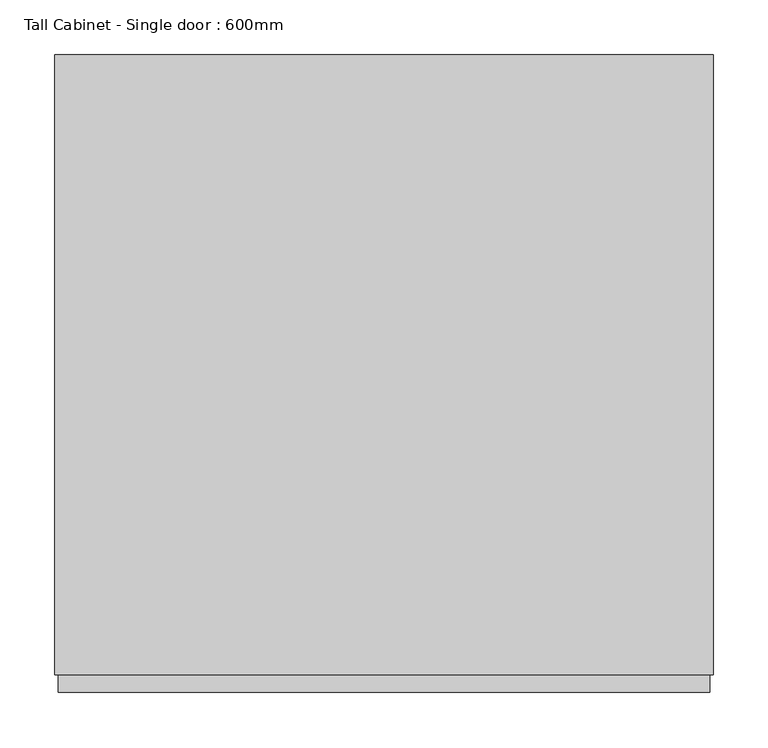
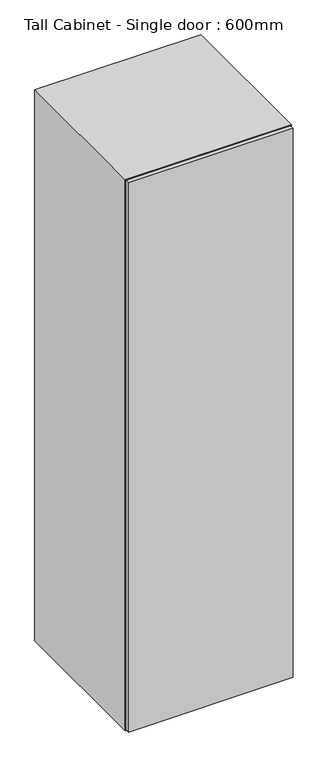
"""IFC4 building model written with IfcOpenShell, lengths in millimetres: furniture geometry, Tall Cabinet - Single door : 600mm."""

from ifc_helpers import new_model, si_unit, frame, origin, place, context, project, spatial, polyline, outline, extrude, source, transform, mapped, element, save


def tall_cabinet_single_door_600mm_1bc0e967(model_context):
    return source(origin(), model_context, "Body", "SweptSolid", [
        extrude(outline(polyline([(341.7003264, -581.0), (-252.2996736, -581.0), (-252.2996736, -565.0), (341.7003264, -565.0), (341.7003264, -581.0)])), frame((0.0, 0.0, 103.0), z_axis=(0.0, 0.0, 1.0), x_axis=(1.0, 0.0, 0.0)), (0.0, 0.0, 1.0), 2094.0),
        extrude(outline(polyline([(328.7003264, -10.0), (328.7003264, -16.0), (-239.2996736, -16.0), (-239.2996736, -10.0), (328.7003264, -10.0)])), frame((0.0, 0.0, 116.0), z_axis=(0.0, 0.0, 1.0), x_axis=(1.0, 0.0, 0.0)), (0.0, 0.0, 1.0), 2068.0),
        extrude(outline(polyline([(2200.0, 344.7003264), (2200.0, -255.2996736), (100.0, -255.2996736), (100.0, 344.7003264), (2200.0, 344.7003264)]), holes=[polyline([(2184.0, 328.7003264), (116.0, 328.7003264), (116.0, -239.2996736), (2184.0, -239.2996736), (2184.0, 328.7003264)])]), frame((0.0, -565.0, 0.0), z_axis=(0.0, 1.0, 0.0), x_axis=(0.0, 0.0, 1.0)), (0.0, 0.0, 1.0), 565.0),
    ])


if __name__ == "__main__":
    model = new_model("IFC4")
    model_context = context("Model", 3, world=origin())
    ifc_project = project(units=[si_unit("LENGTHUNIT", "METRE", prefix="MILLI")], contexts=[model_context])
    site = spatial("IfcSite", under=ifc_project)
    building = spatial("IfcBuilding", under=site)
    placement = place(None, origin())
    tall_cabinet_single_door_600mm_shape = tall_cabinet_single_door_600mm_1bc0e967(model_context)
    element("IfcFurniture", 1, ObjectType="Tall Cabinet - Single door : 600mm", at=placement, inside=building, context=model_context, shape_type="MappedRepresentation", body=[
        mapped(tall_cabinet_single_door_600mm_shape, transform((0.0, 0.0, 0.0), x_axis=(1.0, 0.0, 0.0), y_axis=(0.0, 1.0, 0.0), z_axis=(0.0, 0.0, 1.0))),
    ])
    save(model, "model.ifc")
